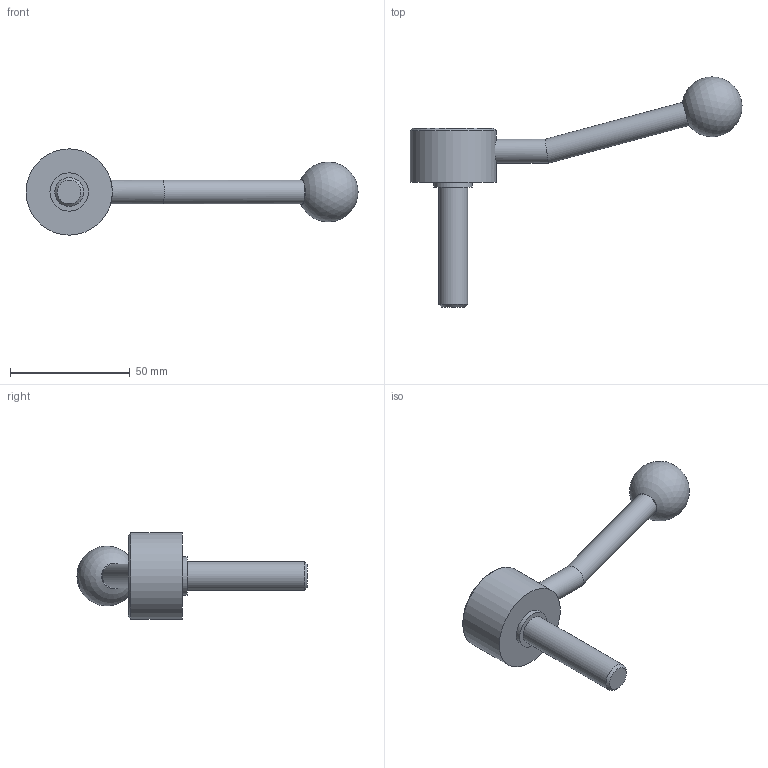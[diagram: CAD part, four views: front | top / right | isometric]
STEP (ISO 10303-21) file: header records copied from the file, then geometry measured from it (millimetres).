
FILE_DESCRIPTION( ( 'STEP AP203' ), '1' );
FILE_NAME( 'C:/Temp/Ganter_Step_05_03_2020/data/2_1/gn_125/gn_125_ms/gn_125_ms_e/Flat Adjustable Lever GN 125-36-M12-50-E.stp', '2020-03-05T11:01:00', ( 'License CC BY-ND 4.0' ), ( 'CADENAS' ), ' ', 'PARTsolutions', ' ' );
FILE_SCHEMA( ( 'CONFIG_CONTROL_DESIGN' ) );
Length unit declared in the file: millimetre
Products named in the file (1): _Flat Adjustable Lever GN 125-36-M12-50-E
Bounding box: 138.41 x 95.97 x 36 mm (x, y, z)
Volume: 43256.3 mm3; surface area: 10851.9 mm2
Topology: 1 solids, 1 shells, 15 faces, 25 edges, 16 vertices
Faces by surface type: cylinder 6, plane 6, cone 2, sphere 1
Full cylindrical faces by diameter (mm): 10 x2, 12 x1, 16 x1, 26 x1, 36 x1
Entity records: 412 total; most frequent: CARTESIAN_POINT 118, DIRECTION 58, AXIS2_PLACEMENT_3D 29, EDGE_LOOP 28, ORIENTED_EDGE 28, FACE_OUTER_BOUND 21, ADVANCED_FACE 15, VERTEX_POINT 15
